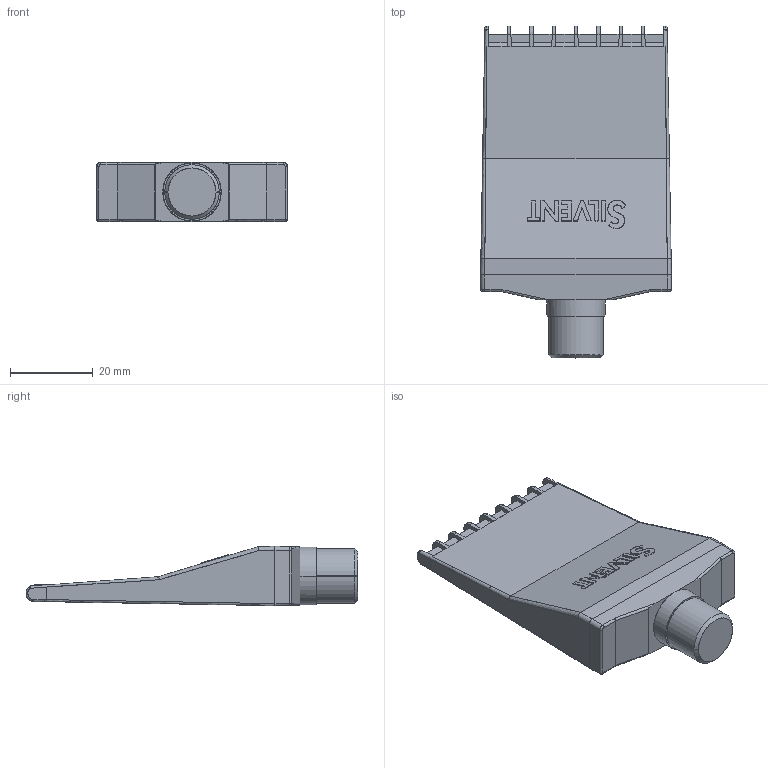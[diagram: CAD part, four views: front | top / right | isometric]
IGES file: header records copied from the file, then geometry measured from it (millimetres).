
Start section: SolidWorks IGES FILE using analytic representation for surfaces
Global section: file name: G:\Silvent\Ritningar\Övrigt\IGES\Silvent 920.IGS; native system: SolidWorks 2003 by SolidWorks Corporation; preprocessor: Version 5.3; author: Ulf; date: 030923.134043; units: millimetre
Bounding box: 46 x 80 x 14.3 mm (x, y, z)
Surface area: 8268 mm2 (no closed solid volume)
Topology: 0 solids, 0 shells, 300 faces, 2221 edges, 2219 vertices
Faces by surface type: bspline 178, revolution 122
